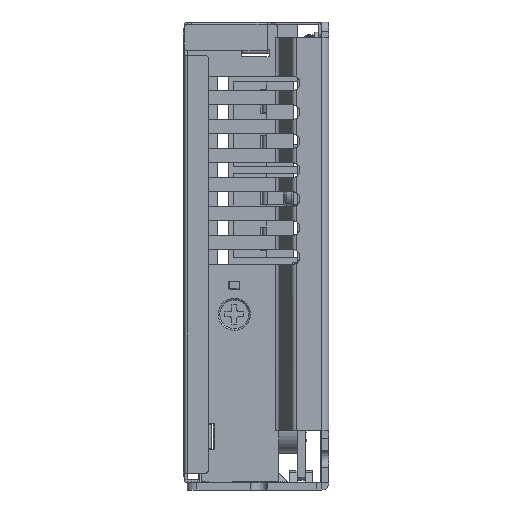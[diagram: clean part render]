
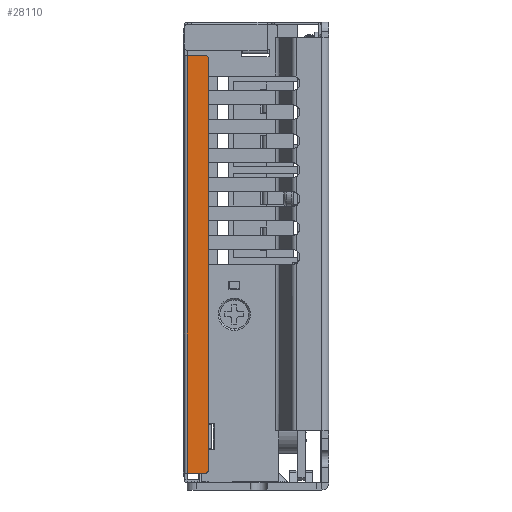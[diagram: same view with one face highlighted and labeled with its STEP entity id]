
A CAD part, left-side view. The second image highlights one B-rep face of the part: STEP entity #28110.
In plain terms, the highlighted planar face has unit normal (-1, 0, 0).
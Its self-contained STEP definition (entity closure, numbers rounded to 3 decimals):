
#22279=DIRECTION('',(0.,0.,-1.));
#22280=VECTOR('',#22279,86.5);
#22281=CARTESIAN_POINT('',(-36.5,-0.6,40.75));
#22282=LINE('',#22281,#22280);
#22308=CARTESIAN_POINT('',(-36.5,-4.5,-45.25));
#22309=DIRECTION('',(1.,0.,0.));
#22310=DIRECTION('',(0.,-1.,0.));
#22311=AXIS2_PLACEMENT_3D('',#22308,#22309,#22310);
#22313=DIRECTION('',(0.,1.,0.));
#22314=VECTOR('',#22313,3.9);
#22315=CARTESIAN_POINT('',(-36.5,-4.5,-45.75));
#22316=LINE('',#22315,#22314);
#22317=DIRECTION('',(0.,-1.,0.));
#22318=VECTOR('',#22317,3.9);
#22319=CARTESIAN_POINT('',(-36.5,-0.6,40.75));
#22320=LINE('',#22319,#22318);
#22321=CARTESIAN_POINT('',(-36.5,-4.5,40.25));
#22322=DIRECTION('',(1.,0.,0.));
#22323=DIRECTION('',(0.,0.,1.));
#22324=AXIS2_PLACEMENT_3D('',#22321,#22322,#22323);
#22326=DIRECTION('',(0.,0.,-1.));
#22327=VECTOR('',#22326,75.9);
#22328=CARTESIAN_POINT('',(-36.5,-5.,40.25));
#22329=LINE('',#22328,#22327);
#22330=DIRECTION('',(0.,0.,-1.));
#22331=VECTOR('',#22330,4.5);
#22332=CARTESIAN_POINT('',(-36.5,-5.,-40.75));
#22333=LINE('',#22332,#22331);
#22359=DIRECTION('',(0.,0.,1.));
#22360=VECTOR('',#22359,5.1);
#22361=CARTESIAN_POINT('',(-36.5,-5.,-40.75));
#22362=LINE('',#22361,#22360);
#25182=CARTESIAN_POINT('',(-36.5,-0.6,-45.75));
#25183=VERTEX_POINT('',#25182);
#25184=CARTESIAN_POINT('',(-36.5,-0.6,40.75));
#25185=VERTEX_POINT('',#25184);
#25186=CARTESIAN_POINT('',(-36.5,-4.5,40.75));
#25188=VERTEX_POINT('',#25186);
#25190=CARTESIAN_POINT('',(-36.5,-5.,40.25));
#25191=VERTEX_POINT('',#25190);
#25194=CARTESIAN_POINT('',(-36.5,-5.,-45.25));
#25195=CARTESIAN_POINT('',(-36.5,-4.5,-45.75));
#25196=VERTEX_POINT('',#25194);
#25197=VERTEX_POINT('',#25195);
#25198=CARTESIAN_POINT('',(-36.5,-5.,-35.65));
#25199=VERTEX_POINT('',#25198);
#25200=CARTESIAN_POINT('',(-36.5,-5.,-40.75));
#25201=VERTEX_POINT('',#25200);
#28090=CARTESIAN_POINT('',(-36.5,0.,-45.75));
#28091=DIRECTION('',(-1.,0.,0.));
#28092=DIRECTION('',(0.,0.,-1.));
#28093=AXIS2_PLACEMENT_3D('',#28090,#28091,#28092);
#28094=PLANE('',#28093);
#28096=ORIENTED_EDGE('',*,*,#28095,.T.);
#28098=ORIENTED_EDGE('',*,*,#28097,.T.);
#28099=ORIENTED_EDGE('',*,*,#28041,.F.);
#28100=ORIENTED_EDGE('',*,*,#28067,.T.);
#28101=ORIENTED_EDGE('',*,*,#28080,.T.);
#28103=ORIENTED_EDGE('',*,*,#28102,.T.);
#28105=ORIENTED_EDGE('',*,*,#28104,.F.);
#28107=ORIENTED_EDGE('',*,*,#28106,.T.);
#28108=EDGE_LOOP('',(#28096,#28098,#28099,#28100,#28101,#28103,#28105,#28107));
#28109=FACE_OUTER_BOUND('',#28108,.F.);
#28110=ADVANCED_FACE('',(#28109),#28094,.T.);
#22312=CIRCLE('',#22311,0.5);
#22325=CIRCLE('',#22324,0.5);
#28041=EDGE_CURVE('',#25185,#25183,#22282,.T.);
#28067=EDGE_CURVE('',#25185,#25188,#22320,.T.);
#28080=EDGE_CURVE('',#25188,#25191,#22325,.T.);
#28095=EDGE_CURVE('',#25196,#25197,#22312,.T.);
#28097=EDGE_CURVE('',#25197,#25183,#22316,.T.);
#28102=EDGE_CURVE('',#25191,#25199,#22329,.T.);
#28104=EDGE_CURVE('',#25201,#25199,#22362,.T.);
#28106=EDGE_CURVE('',#25201,#25196,#22333,.T.);
